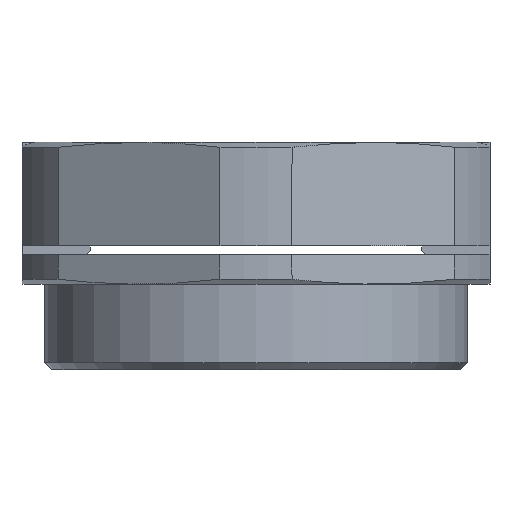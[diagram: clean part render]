
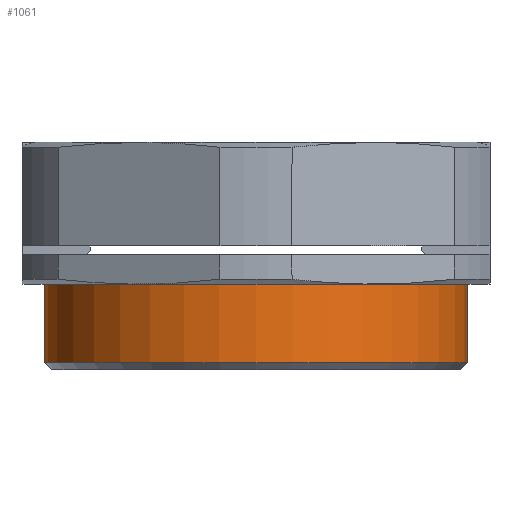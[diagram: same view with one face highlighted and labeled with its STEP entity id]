
A CAD part, front view. The second image highlights one B-rep face of the part: STEP entity #1061.
In plain terms, the highlighted cylindrical face has radius 23.5 mm (diameter 47 mm), a partial arc.
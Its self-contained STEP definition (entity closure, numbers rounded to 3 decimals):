
#1052 = EDGE_CURVE ( 'NONE', #1500, #1560, #3451, .T. ) ;
#1055 = ORIENTED_EDGE ( 'NONE', *, *, #1563, .F. ) ;
#1056 = ORIENTED_EDGE ( 'NONE', *, *, #1059, .T. ) ;
#1059 = EDGE_CURVE ( 'NONE', #1416, #1553, #3439, .T. ) ;
#1061 = ADVANCED_FACE ( 'NONE', ( #3430 ), #3429, .T. ) ;
#1065 = ORIENTED_EDGE ( 'NONE', *, *, #1501, .T. ) ;
#1066 = EDGE_LOOP ( 'NONE', ( #1055, #1056, #1065, #1084 ) ) ;
#1084 = ORIENTED_EDGE ( 'NONE', *, *, #1052, .F. ) ;
#1416 = VERTEX_POINT ( 'NONE', #4076 ) ;
#1500 = VERTEX_POINT ( 'NONE', #4291 ) ;
#1501 = EDGE_CURVE ( 'NONE', #1553, #1560, #4290, .T. ) ;
#1553 = VERTEX_POINT ( 'NONE', #4370 ) ;
#1560 = VERTEX_POINT ( 'NONE', #4418 ) ;
#1563 = EDGE_CURVE ( 'NONE', #1416, #1500, #4461, .T. ) ;
#3425 = DIRECTION ( 'NONE',  ( 0., 0., 1. ) ) ;
#3426 = CARTESIAN_POINT ( 'NONE',  ( 0., 0., 0. ) ) ;
#3427 = AXIS2_PLACEMENT_3D ( 'NONE', #3426, #3425, #3484 ) ;
#3429 = CYLINDRICAL_SURFACE ( 'NONE', #3427, 23.5 ) ;
#3430 = FACE_OUTER_BOUND ( 'NONE', #1066, .T. ) ;
#3431 = DIRECTION ( 'NONE',  ( 1., 0., 0. ) ) ;
#3432 = DIRECTION ( 'NONE',  ( 0., 0., 1. ) ) ;
#3433 = CARTESIAN_POINT ( 'NONE',  ( 0., 0., -24.5 ) ) ;
#3434 = AXIS2_PLACEMENT_3D ( 'NONE', #3433, #3432, #3431 ) ;
#3439 = CIRCLE ( 'NONE', #3434, 23.5 ) ;
#3441 = DIRECTION ( 'NONE',  ( 1., 0., 0. ) ) ;
#3442 = DIRECTION ( 'NONE',  ( 0., 0., 1. ) ) ;
#3443 = CARTESIAN_POINT ( 'NONE',  ( 0., 0., -15.8 ) ) ;
#3444 = AXIS2_PLACEMENT_3D ( 'NONE', #3443, #3442, #3441 ) ;
#3451 = CIRCLE ( 'NONE', #3444, 23.5 ) ;
#3484 = DIRECTION ( 'NONE',  ( 1., 0., 0. ) ) ;
#4076 = CARTESIAN_POINT ( 'NONE',  ( -23.5, 0., -24.5 ) ) ;
#4287 = DIRECTION ( 'NONE',  ( 0., 0., 1. ) ) ;
#4288 = VECTOR ( 'NONE', #4287, 1000. ) ;
#4289 = CARTESIAN_POINT ( 'NONE',  ( 23.5, 0., 0. ) ) ;
#4290 = LINE ( 'NONE', #4289, #4288 ) ;
#4291 = CARTESIAN_POINT ( 'NONE',  ( -23.5, 0., -15.8 ) ) ;
#4370 = CARTESIAN_POINT ( 'NONE',  ( 23.5, 0., -24.5 ) ) ;
#4418 = CARTESIAN_POINT ( 'NONE',  ( 23.5, 0., -15.8 ) ) ;
#4458 = DIRECTION ( 'NONE',  ( 0., 0., 1. ) ) ;
#4459 = VECTOR ( 'NONE', #4458, 1000. ) ;
#4460 = CARTESIAN_POINT ( 'NONE',  ( -23.5, 0., 0. ) ) ;
#4461 = LINE ( 'NONE', #4460, #4459 ) ;
